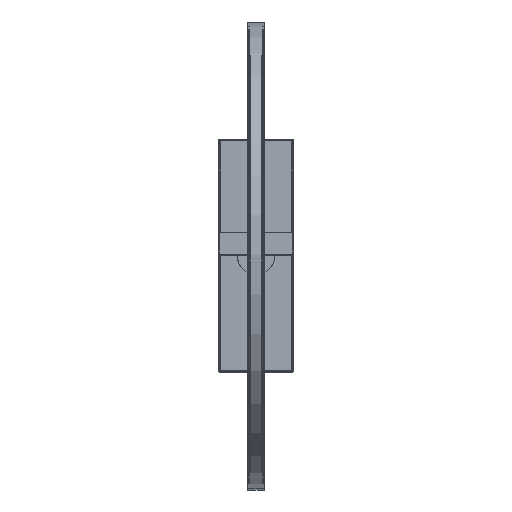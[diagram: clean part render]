
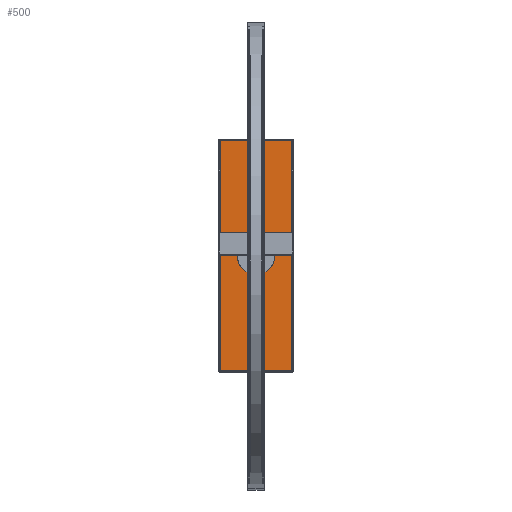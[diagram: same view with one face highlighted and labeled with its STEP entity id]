
A CAD part, top view. The second image highlights one B-rep face of the part: STEP entity #500.
In plain terms, the highlighted planar face has unit normal (0, 0, 1) as drawn and (0, 1, 0) by its records, which use the part's own axes.
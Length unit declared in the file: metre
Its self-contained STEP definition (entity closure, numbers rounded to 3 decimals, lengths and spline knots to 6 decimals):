
#500 = ADVANCED_FACE( '', ( #788, #789, #790 ), #791, .F. );
#788 = FACE_BOUND( '', #1356, .T. );
#789 = FACE_BOUND( '', #1357, .T. );
#790 = FACE_OUTER_BOUND( '', #1358, .T. );
#791 = PLANE( '', #1359 );
#1356 = EDGE_LOOP( '', ( #2042 ) );
#1357 = EDGE_LOOP( '', ( #2043 ) );
#1358 = EDGE_LOOP( '', ( #2044, #2045, #2046, #2047 ) );
#1359 = AXIS2_PLACEMENT_3D( '', #2048, #2049, #2050 );
#2042 = ORIENTED_EDGE( '', *, *, #4028, .T. );
#2043 = ORIENTED_EDGE( '', *, *, #4003, .T. );
#2044 = ORIENTED_EDGE( '', *, *, #4016, .T. );
#2045 = ORIENTED_EDGE( '', *, *, #4027, .F. );
#2046 = ORIENTED_EDGE( '', *, *, #4029, .T. );
#2047 = ORIENTED_EDGE( '', *, *, #4030, .T. );
#2048 = CARTESIAN_POINT( '', ( -0.04, 0.001, -0.125 ) );
#2049 = DIRECTION( '', ( 0., -1., 0. ) );
#2050 = DIRECTION( '', ( 0., 0., -1. ) );
#4003 = EDGE_CURVE( '', #4692, #4692, #4693, .T. );
#4016 = EDGE_CURVE( '', #4709, #4713, #4715, .T. );
#4027 = EDGE_CURVE( '', #4716, #4713, #4729, .T. );
#4028 = EDGE_CURVE( '', #4730, #4730, #4731, .T. );
#4029 = EDGE_CURVE( '', #4716, #4732, #4733, .T. );
#4030 = EDGE_CURVE( '', #4732, #4709, #4734, .T. );
#4692 = VERTEX_POINT( '', #5819 );
#4693 = CIRCLE( '', #5820, 0.005 );
#4709 = VERTEX_POINT( '', #5844 );
#4713 = VERTEX_POINT( '', #5849 );
#4715 = LINE( '', #5851, #5852 );
#4716 = VERTEX_POINT( '', #5853 );
#4729 = LINE( '', #5870, #5871 );
#4730 = VERTEX_POINT( '', #5872 );
#4731 = CIRCLE( '', #5873, 0.005 );
#4732 = VERTEX_POINT( '', #5874 );
#4733 = LINE( '', #5875, #5876 );
#4734 = LINE( '', #5877, #5878 );
#5819 = CARTESIAN_POINT( '', ( 0., 0.001, -0.005 ) );
#5820 = AXIS2_PLACEMENT_3D( '', #7889, #7890, #7891 );
#5844 = CARTESIAN_POINT( '', ( -0.0385, 0.001, -0.1235 ) );
#5849 = CARTESIAN_POINT( '', ( -0.0385, 0.001, 0.1235 ) );
#5851 = CARTESIAN_POINT( '', ( -0.0385, 0.001, 0.1235 ) );
#5852 = VECTOR( '', #7910, 1. );
#5853 = CARTESIAN_POINT( '', ( 0.0385, 0.001, 0.1235 ) );
#5870 = CARTESIAN_POINT( '', ( 0.0385, 0.001, 0.1235 ) );
#5871 = VECTOR( '', #7933, 1. );
#5872 = CARTESIAN_POINT( '', ( 0., 0.001, -0.025 ) );
#5873 = AXIS2_PLACEMENT_3D( '', #7934, #7935, #7936 );
#5874 = CARTESIAN_POINT( '', ( 0.0385, 0.001, -0.1235 ) );
#5875 = CARTESIAN_POINT( '', ( 0.0385, 0.001, -0.1235 ) );
#5876 = VECTOR( '', #7937, 1. );
#5877 = CARTESIAN_POINT( '', ( -0.0385, 0.001, -0.1235 ) );
#5878 = VECTOR( '', #7938, 1. );
#7889 = CARTESIAN_POINT( '', ( 0., 0.001, 0. ) );
#7890 = DIRECTION( '', ( 0., -1., 0. ) );
#7891 = DIRECTION( '', ( 0., 0., -1. ) );
#7910 = DIRECTION( '', ( 0., 0., 1. ) );
#7933 = DIRECTION( '', ( -1., 0., 0. ) );
#7934 = CARTESIAN_POINT( '', ( 0., 0.001, -0.02 ) );
#7935 = DIRECTION( '', ( 0., -1., 0. ) );
#7936 = DIRECTION( '', ( 0., 0., -1. ) );
#7937 = DIRECTION( '', ( 0., 0., -1. ) );
#7938 = DIRECTION( '', ( -1., 0., 0. ) );
